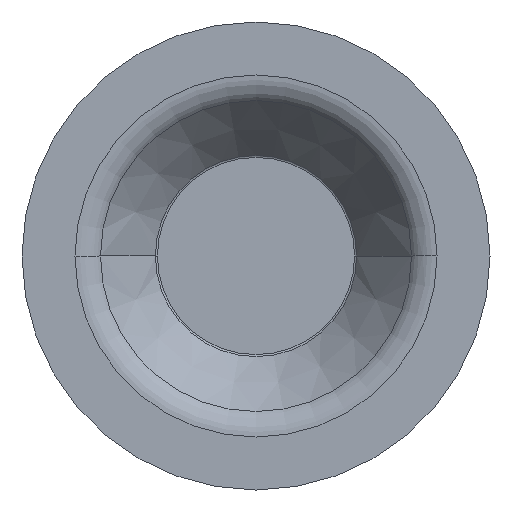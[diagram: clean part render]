
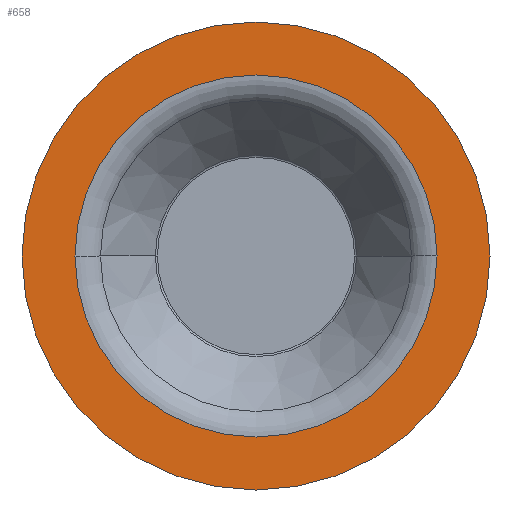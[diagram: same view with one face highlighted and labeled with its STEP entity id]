
A CAD part, front view. The second image highlights one B-rep face of the part: STEP entity #658.
In plain terms, the highlighted planar face has unit normal (0, -1, 0).
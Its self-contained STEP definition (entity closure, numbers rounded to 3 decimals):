
#31 = DIRECTION ( 'NONE',  ( 0., -1., 0. ) ) ;
#106 = CIRCLE ( 'NONE', #1296, 36.744 ) ;
#193 = DIRECTION ( 'NONE',  ( 0., -1., 0. ) ) ;
#266 = CARTESIAN_POINT ( 'NONE',  ( 47.5, -22., 0. ) ) ;
#333 = AXIS2_PLACEMENT_3D ( 'NONE', #1324, #193, #832 ) ;
#349 = CARTESIAN_POINT ( 'NONE',  ( -47.5, -22., 0. ) ) ;
#375 = DIRECTION ( 'NONE',  ( 0., -1., 0. ) ) ;
#382 = CARTESIAN_POINT ( 'NONE',  ( 0., -22., 0. ) ) ;
#419 = EDGE_CURVE ( 'NONE', #588, #1609, #1369, .T. ) ;
#428 = EDGE_LOOP ( 'NONE', ( #1027, #578 ) ) ;
#465 = CIRCLE ( 'NONE', #1173, 47.5 ) ;
#485 = DIRECTION ( 'NONE',  ( 1., 0., 0. ) ) ;
#493 = DIRECTION ( 'NONE',  ( 0., -1., 0. ) ) ;
#578 = ORIENTED_EDGE ( 'NONE', *, *, #419, .T. ) ;
#588 = VERTEX_POINT ( 'NONE', #349 ) ;
#656 = CARTESIAN_POINT ( 'NONE',  ( -36.744, -22., 0. ) ) ;
#658 = ADVANCED_FACE ( 'NONE', ( #1391, #1237 ), #1118, .T. ) ;
#680 = EDGE_CURVE ( 'NONE', #1482, #1291, #1584, .T. ) ;
#732 = EDGE_CURVE ( 'NONE', #1609, #588, #465, .T. ) ;
#737 = EDGE_LOOP ( 'NONE', ( #926, #868 ) ) ;
#741 = CARTESIAN_POINT ( 'NONE',  ( 0., -22., 0. ) ) ;
#832 = DIRECTION ( 'NONE',  ( 1., 0., 0. ) ) ;
#858 = AXIS2_PLACEMENT_3D ( 'NONE', #741, #1111, #1523 ) ;
#868 = ORIENTED_EDGE ( 'NONE', *, *, #680, .F. ) ;
#926 = ORIENTED_EDGE ( 'NONE', *, *, #1329, .F. ) ;
#935 = DIRECTION ( 'NONE',  ( -1., 0., 0. ) ) ;
#1027 = ORIENTED_EDGE ( 'NONE', *, *, #732, .T. ) ;
#1040 = CARTESIAN_POINT ( 'NONE',  ( 0., -22., 0. ) ) ;
#1082 = CARTESIAN_POINT ( 'NONE',  ( 36.744, -22., 0. ) ) ;
#1111 = DIRECTION ( 'NONE',  ( 0., -1., 0. ) ) ;
#1118 = PLANE ( 'NONE',  #1563 ) ;
#1123 = DIRECTION ( 'NONE',  ( 1., 0., 0. ) ) ;
#1173 = AXIS2_PLACEMENT_3D ( 'NONE', #382, #375, #1123 ) ;
#1237 = FACE_OUTER_BOUND ( 'NONE', #428, .T. ) ;
#1291 = VERTEX_POINT ( 'NONE', #656 ) ;
#1296 = AXIS2_PLACEMENT_3D ( 'NONE', #1040, #31, #935 ) ;
#1324 = CARTESIAN_POINT ( 'NONE',  ( 0., -22., 0. ) ) ;
#1329 = EDGE_CURVE ( 'NONE', #1291, #1482, #106, .T. ) ;
#1353 = CARTESIAN_POINT ( 'NONE',  ( 47.5, -22., 0. ) ) ;
#1369 = CIRCLE ( 'NONE', #333, 47.5 ) ;
#1391 = FACE_BOUND ( 'NONE', #737, .T. ) ;
#1482 = VERTEX_POINT ( 'NONE', #1082 ) ;
#1523 = DIRECTION ( 'NONE',  ( -1., 0., 0. ) ) ;
#1563 = AXIS2_PLACEMENT_3D ( 'NONE', #1353, #493, #485 ) ;
#1584 = CIRCLE ( 'NONE', #858, 36.744 ) ;
#1609 = VERTEX_POINT ( 'NONE', #266 ) ;
